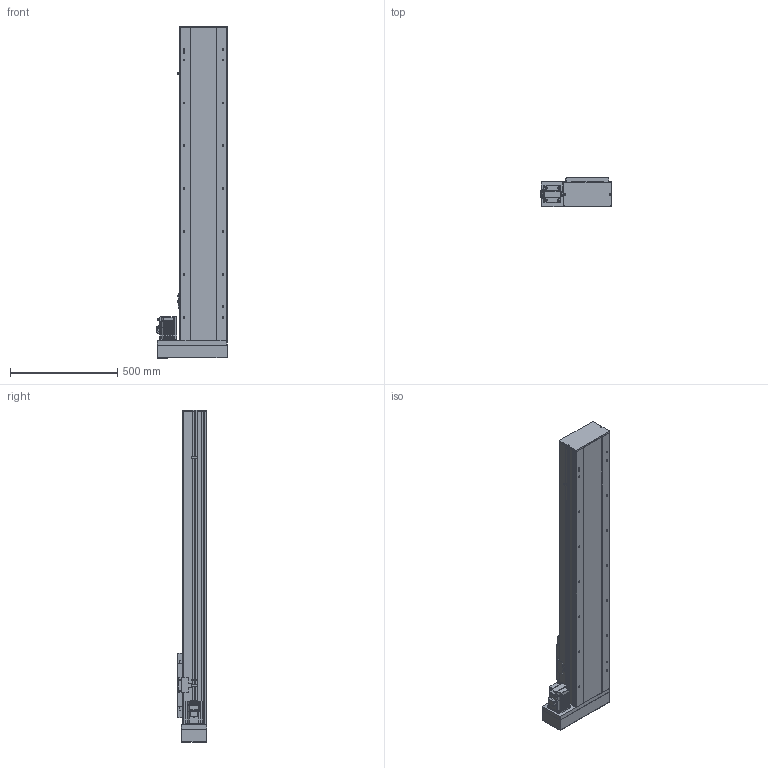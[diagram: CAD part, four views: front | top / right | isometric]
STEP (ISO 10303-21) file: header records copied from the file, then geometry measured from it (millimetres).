
FILE_DESCRIPTION (( 'STEP AP214' ), '1' );
FILE_NAME ('TPF22-1050-BL-P75.STEP', '2023-03-29T03:47:18', ( '' ), ( '' ), 'SwSTEP 2.0', 'SolidWorks 2020', '' );
FILE_SCHEMA (( 'AUTOMOTIVE_DESIGN' ));
Length unit declared in the file: millimetre
Products named in the file (8): 葩璃 TPF22-BC-002 耜裔ZTMZ-220-04^TPF22-BL-P75; 葩璃 詩湍150^TPF22-BL-P75; 葩璃 MSMD08PC_P75^TPF22-BL-P75; 葩璃 pm-t65-672^TPF22-BL-P75; TPF22-1050-BL-P75; 葩璃 TPE22 賑雄殤^TPF22-BL-P75; 葩璃 TPF22-BL R-009 萇儂啣^TPF22-BL-P75_耳32-750W; 葩璃 TPF22-BC-001 菁釱MZ-220-01^TPF22-BL-P75
Assembly tree (10 placements, depth 2):
  TPF22-1050-BL-P75
    葩璃 TPF22-BC-001 菁釱MZ-220-01^TPF22-BL-P75
    葩璃 TPF22-BC-002 耜裔ZTMZ-220-04^TPF22-BL-P75  x2
    葩璃 TPE22 賑雄殤^TPF22-BL-P75
    葩璃 詩湍150^TPF22-BL-P75
    葩璃 TPF22-BL R-009 萇儂啣^TPF22-BL-P75_耳32-750W
    葩璃 pm-t65-672^TPF22-BL-P75  x3
    葩璃 MSMD08PC_P75^TPF22-BL-P75
Bounding box: 327.5 x 138 x 1549 mm (x, y, z)
Volume: 18193011.6 mm3; surface area: 2682963.8 mm2
Topology: 16 solids, 16 shells, 1552 faces, 4094 edges, 2621 vertices
Faces by surface type: plane 977, cylinder 483, cone 62, bspline 30
Entity records: 42859 total; most frequent: CARTESIAN_POINT 9055, ORIENTED_EDGE 6708, DIRECTION 6697, EDGE_CURVE 3354, LINE 2369, VECTOR 2369, VERTEX_POINT 2165, AXIS2_PLACEMENT_3D 2164
